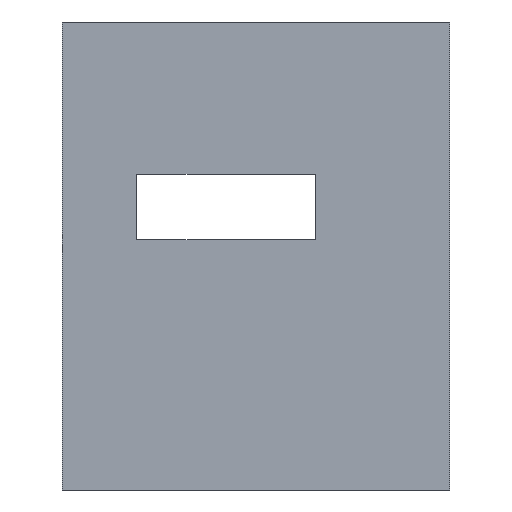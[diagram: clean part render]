
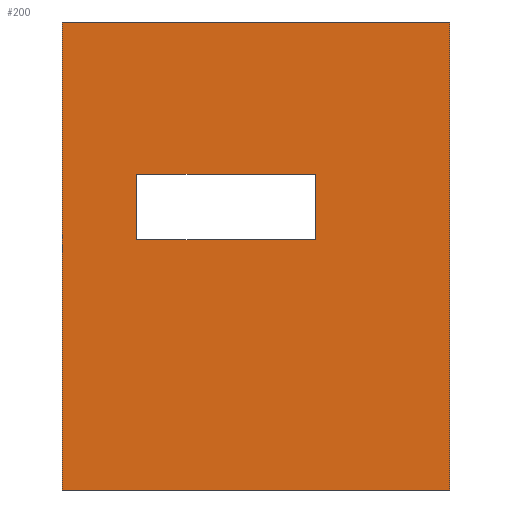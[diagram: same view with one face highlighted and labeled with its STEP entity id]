
A CAD part, front view. The second image highlights one B-rep face of the part: STEP entity #200.
In plain terms, the highlighted planar face has unit normal (0, -1, 0).
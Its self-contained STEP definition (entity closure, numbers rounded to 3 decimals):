
#21 = EDGE_CURVE('',#22,#24,#26,.T.);
#22 = VERTEX_POINT('',#23);
#23 = CARTESIAN_POINT('',(24.,22.,-9.75));
#24 = VERTEX_POINT('',#25);
#25 = CARTESIAN_POINT('',(24.,22.,-1.9));
#26 = SURFACE_CURVE('',#27,(#31,#43),.PCURVE_S1.);
#27 = LINE('',#28,#29);
#28 = CARTESIAN_POINT('',(24.,22.,-9.75));
#29 = VECTOR('',#30,1.);
#30 = DIRECTION('',(0.,0.,1.));
#31 = PCURVE('',#32,#37);
#32 = PLANE('',#33);
#33 = AXIS2_PLACEMENT_3D('',#34,#35,#36);
#34 = CARTESIAN_POINT('',(24.,22.,-9.75));
#35 = DIRECTION('',(1.,0.,-0.));
#36 = DIRECTION('',(0.,0.,1.));
#37 = DEFINITIONAL_REPRESENTATION('',(#38),#42);
#38 = LINE('',#39,#40);
#39 = CARTESIAN_POINT('',(0.,0.));
#40 = VECTOR('',#41,1.);
#41 = DIRECTION('',(1.,0.));
#42 = ( GEOMETRIC_REPRESENTATION_CONTEXT(2) 
PARAMETRIC_REPRESENTATION_CONTEXT() REPRESENTATION_CONTEXT('2D SPACE',''
  ) );
#43 = PCURVE('',#44,#49);
#44 = PLANE('',#45);
#45 = AXIS2_PLACEMENT_3D('',#46,#47,#48);
#46 = CARTESIAN_POINT('',(24.,22.,-9.75));
#47 = DIRECTION('',(-0.,1.,0.));
#48 = DIRECTION('',(0.,0.,1.));
#49 = DEFINITIONAL_REPRESENTATION('',(#50),#54);
#50 = LINE('',#51,#52);
#51 = CARTESIAN_POINT('',(0.,0.));
#52 = VECTOR('',#53,1.);
#53 = DIRECTION('',(1.,0.));
#54 = ( GEOMETRIC_REPRESENTATION_CONTEXT(2) 
PARAMETRIC_REPRESENTATION_CONTEXT() REPRESENTATION_CONTEXT('2D SPACE',''
  ) );
#72 = PLANE('',#73);
#73 = AXIS2_PLACEMENT_3D('',#74,#75,#76);
#74 = CARTESIAN_POINT('',(24.,22.,-9.75));
#75 = DIRECTION('',(0.,0.,1.));
#76 = DIRECTION('',(1.,0.,-0.));
#189 = PLANE('',#190);
#190 = AXIS2_PLACEMENT_3D('',#191,#192,#193);
#191 = CARTESIAN_POINT('',(24.,22.,-1.9));
#192 = DIRECTION('',(0.,0.,1.));
#193 = DIRECTION('',(1.,0.,-0.));
#200 = ADVANCED_FACE('',(#201,#276),#44,.F.);
#201 = FACE_BOUND('',#202,.F.);
#202 = EDGE_LOOP('',(#203,#226,#227,#250));
#203 = ORIENTED_EDGE('',*,*,#204,.F.);
#204 = EDGE_CURVE('',#22,#205,#207,.T.);
#205 = VERTEX_POINT('',#206);
#206 = CARTESIAN_POINT('',(30.5,22.,-9.75));
#207 = SURFACE_CURVE('',#208,(#212,#219),.PCURVE_S1.);
#208 = LINE('',#209,#210);
#209 = CARTESIAN_POINT('',(24.,22.,-9.75));
#210 = VECTOR('',#211,1.);
#211 = DIRECTION('',(1.,0.,-0.));
#212 = PCURVE('',#44,#213);
#213 = DEFINITIONAL_REPRESENTATION('',(#214),#218);
#214 = LINE('',#215,#216);
#215 = CARTESIAN_POINT('',(0.,0.));
#216 = VECTOR('',#217,1.);
#217 = DIRECTION('',(0.,1.));
#218 = ( GEOMETRIC_REPRESENTATION_CONTEXT(2) 
PARAMETRIC_REPRESENTATION_CONTEXT() REPRESENTATION_CONTEXT('2D SPACE',''
  ) );
#219 = PCURVE('',#72,#220);
#220 = DEFINITIONAL_REPRESENTATION('',(#221),#225);
#221 = LINE('',#222,#223);
#222 = CARTESIAN_POINT('',(0.,0.));
#223 = VECTOR('',#224,1.);
#224 = DIRECTION('',(1.,0.));
#225 = ( GEOMETRIC_REPRESENTATION_CONTEXT(2) 
PARAMETRIC_REPRESENTATION_CONTEXT() REPRESENTATION_CONTEXT('2D SPACE',''
  ) );
#226 = ORIENTED_EDGE('',*,*,#21,.T.);
#227 = ORIENTED_EDGE('',*,*,#228,.T.);
#228 = EDGE_CURVE('',#24,#229,#231,.T.);
#229 = VERTEX_POINT('',#230);
#230 = CARTESIAN_POINT('',(30.5,22.,-1.9));
#231 = SURFACE_CURVE('',#232,(#236,#243),.PCURVE_S1.);
#232 = LINE('',#233,#234);
#233 = CARTESIAN_POINT('',(24.,22.,-1.9));
#234 = VECTOR('',#235,1.);
#235 = DIRECTION('',(1.,0.,-0.));
#236 = PCURVE('',#44,#237);
#237 = DEFINITIONAL_REPRESENTATION('',(#238),#242);
#238 = LINE('',#239,#240);
#239 = CARTESIAN_POINT('',(7.85,0.));
#240 = VECTOR('',#241,1.);
#241 = DIRECTION('',(0.,1.));
#242 = ( GEOMETRIC_REPRESENTATION_CONTEXT(2) 
PARAMETRIC_REPRESENTATION_CONTEXT() REPRESENTATION_CONTEXT('2D SPACE',''
  ) );
#243 = PCURVE('',#189,#244);
#244 = DEFINITIONAL_REPRESENTATION('',(#245),#249);
#245 = LINE('',#246,#247);
#246 = CARTESIAN_POINT('',(0.,0.));
#247 = VECTOR('',#248,1.);
#248 = DIRECTION('',(1.,0.));
#249 = ( GEOMETRIC_REPRESENTATION_CONTEXT(2) 
PARAMETRIC_REPRESENTATION_CONTEXT() REPRESENTATION_CONTEXT('2D SPACE',''
  ) );
#250 = ORIENTED_EDGE('',*,*,#251,.F.);
#251 = EDGE_CURVE('',#205,#229,#252,.T.);
#252 = SURFACE_CURVE('',#253,(#257,#264),.PCURVE_S1.);
#253 = LINE('',#254,#255);
#254 = CARTESIAN_POINT('',(30.5,22.,-9.75));
#255 = VECTOR('',#256,1.);
#256 = DIRECTION('',(0.,0.,1.));
#257 = PCURVE('',#44,#258);
#258 = DEFINITIONAL_REPRESENTATION('',(#259),#263);
#259 = LINE('',#260,#261);
#260 = CARTESIAN_POINT('',(0.,6.5));
#261 = VECTOR('',#262,1.);
#262 = DIRECTION('',(1.,0.));
#263 = ( GEOMETRIC_REPRESENTATION_CONTEXT(2) 
PARAMETRIC_REPRESENTATION_CONTEXT() REPRESENTATION_CONTEXT('2D SPACE',''
  ) );
#264 = PCURVE('',#265,#270);
#265 = PLANE('',#266);
#266 = AXIS2_PLACEMENT_3D('',#267,#268,#269);
#267 = CARTESIAN_POINT('',(30.5,22.,-9.75));
#268 = DIRECTION('',(1.,0.,-0.));
#269 = DIRECTION('',(0.,0.,1.));
#270 = DEFINITIONAL_REPRESENTATION('',(#271),#275);
#271 = LINE('',#272,#273);
#272 = CARTESIAN_POINT('',(0.,0.));
#273 = VECTOR('',#274,1.);
#274 = DIRECTION('',(1.,0.));
#275 = ( GEOMETRIC_REPRESENTATION_CONTEXT(2) 
PARAMETRIC_REPRESENTATION_CONTEXT() REPRESENTATION_CONTEXT('2D SPACE',''
  ) );
#276 = FACE_BOUND('',#277,.F.);
#277 = EDGE_LOOP('',(#278,#308,#336,#364));
#278 = ORIENTED_EDGE('',*,*,#279,.F.);
#279 = EDGE_CURVE('',#280,#282,#284,.T.);
#280 = VERTEX_POINT('',#281);
#281 = CARTESIAN_POINT('',(25.25,22.,-4.45));
#282 = VERTEX_POINT('',#283);
#283 = CARTESIAN_POINT('',(28.25,22.,-4.45));
#284 = SURFACE_CURVE('',#285,(#289,#296),.PCURVE_S1.);
#285 = LINE('',#286,#287);
#286 = CARTESIAN_POINT('',(24.625,22.,-4.45));
#287 = VECTOR('',#288,1.);
#288 = DIRECTION('',(1.,0.,-0.));
#289 = PCURVE('',#44,#290);
#290 = DEFINITIONAL_REPRESENTATION('',(#291),#295);
#291 = LINE('',#292,#293);
#292 = CARTESIAN_POINT('',(5.3,0.625));
#293 = VECTOR('',#294,1.);
#294 = DIRECTION('',(0.,1.));
#295 = ( GEOMETRIC_REPRESENTATION_CONTEXT(2) 
PARAMETRIC_REPRESENTATION_CONTEXT() REPRESENTATION_CONTEXT('2D SPACE',''
  ) );
#296 = PCURVE('',#297,#302);
#297 = PLANE('',#298);
#298 = AXIS2_PLACEMENT_3D('',#299,#300,#301);
#299 = CARTESIAN_POINT('',(25.25,21.9,-4.45));
#300 = DIRECTION('',(0.,0.,1.));
#301 = DIRECTION('',(1.,0.,-0.));
#302 = DEFINITIONAL_REPRESENTATION('',(#303),#307);
#303 = LINE('',#304,#305);
#304 = CARTESIAN_POINT('',(-0.625,0.1));
#305 = VECTOR('',#306,1.);
#306 = DIRECTION('',(1.,0.));
#307 = ( GEOMETRIC_REPRESENTATION_CONTEXT(2) 
PARAMETRIC_REPRESENTATION_CONTEXT() REPRESENTATION_CONTEXT('2D SPACE',''
  ) );
#308 = ORIENTED_EDGE('',*,*,#309,.T.);
#309 = EDGE_CURVE('',#280,#310,#312,.T.);
#310 = VERTEX_POINT('',#311);
#311 = CARTESIAN_POINT('',(25.25,22.,-5.55));
#312 = SURFACE_CURVE('',#313,(#317,#324),.PCURVE_S1.);
#313 = LINE('',#314,#315);
#314 = CARTESIAN_POINT('',(25.25,22.,-7.65));
#315 = VECTOR('',#316,1.);
#316 = DIRECTION('',(-0.,0.,-1.));
#317 = PCURVE('',#44,#318);
#318 = DEFINITIONAL_REPRESENTATION('',(#319),#323);
#319 = LINE('',#320,#321);
#320 = CARTESIAN_POINT('',(2.1,1.25));
#321 = VECTOR('',#322,1.);
#322 = DIRECTION('',(-1.,0.));
#323 = ( GEOMETRIC_REPRESENTATION_CONTEXT(2) 
PARAMETRIC_REPRESENTATION_CONTEXT() REPRESENTATION_CONTEXT('2D SPACE',''
  ) );
#324 = PCURVE('',#325,#330);
#325 = PLANE('',#326);
#326 = AXIS2_PLACEMENT_3D('',#327,#328,#329);
#327 = CARTESIAN_POINT('',(25.25,21.9,-5.55));
#328 = DIRECTION('',(1.,0.,-0.));
#329 = DIRECTION('',(0.,0.,1.));
#330 = DEFINITIONAL_REPRESENTATION('',(#331),#335);
#331 = LINE('',#332,#333);
#332 = CARTESIAN_POINT('',(-2.1,-0.1));
#333 = VECTOR('',#334,1.);
#334 = DIRECTION('',(-1.,-0.));
#335 = ( GEOMETRIC_REPRESENTATION_CONTEXT(2) 
PARAMETRIC_REPRESENTATION_CONTEXT() REPRESENTATION_CONTEXT('2D SPACE',''
  ) );
#336 = ORIENTED_EDGE('',*,*,#337,.T.);
#337 = EDGE_CURVE('',#310,#338,#340,.T.);
#338 = VERTEX_POINT('',#339);
#339 = CARTESIAN_POINT('',(28.25,22.,-5.55));
#340 = SURFACE_CURVE('',#341,(#345,#352),.PCURVE_S1.);
#341 = LINE('',#342,#343);
#342 = CARTESIAN_POINT('',(24.625,22.,-5.55));
#343 = VECTOR('',#344,1.);
#344 = DIRECTION('',(1.,0.,-0.));
#345 = PCURVE('',#44,#346);
#346 = DEFINITIONAL_REPRESENTATION('',(#347),#351);
#347 = LINE('',#348,#349);
#348 = CARTESIAN_POINT('',(4.2,0.625));
#349 = VECTOR('',#350,1.);
#350 = DIRECTION('',(0.,1.));
#351 = ( GEOMETRIC_REPRESENTATION_CONTEXT(2) 
PARAMETRIC_REPRESENTATION_CONTEXT() REPRESENTATION_CONTEXT('2D SPACE',''
  ) );
#352 = PCURVE('',#353,#358);
#353 = PLANE('',#354);
#354 = AXIS2_PLACEMENT_3D('',#355,#356,#357);
#355 = CARTESIAN_POINT('',(25.25,21.9,-5.55));
#356 = DIRECTION('',(0.,0.,1.));
#357 = DIRECTION('',(1.,0.,-0.));
#358 = DEFINITIONAL_REPRESENTATION('',(#359),#363);
#359 = LINE('',#360,#361);
#360 = CARTESIAN_POINT('',(-0.625,0.1));
#361 = VECTOR('',#362,1.);
#362 = DIRECTION('',(1.,0.));
#363 = ( GEOMETRIC_REPRESENTATION_CONTEXT(2) 
PARAMETRIC_REPRESENTATION_CONTEXT() REPRESENTATION_CONTEXT('2D SPACE',''
  ) );
#364 = ORIENTED_EDGE('',*,*,#365,.F.);
#365 = EDGE_CURVE('',#282,#338,#366,.T.);
#366 = SURFACE_CURVE('',#367,(#371,#378),.PCURVE_S1.);
#367 = LINE('',#368,#369);
#368 = CARTESIAN_POINT('',(28.25,22.,-7.65));
#369 = VECTOR('',#370,1.);
#370 = DIRECTION('',(-0.,0.,-1.));
#371 = PCURVE('',#44,#372);
#372 = DEFINITIONAL_REPRESENTATION('',(#373),#377);
#373 = LINE('',#374,#375);
#374 = CARTESIAN_POINT('',(2.1,4.25));
#375 = VECTOR('',#376,1.);
#376 = DIRECTION('',(-1.,0.));
#377 = ( GEOMETRIC_REPRESENTATION_CONTEXT(2) 
PARAMETRIC_REPRESENTATION_CONTEXT() REPRESENTATION_CONTEXT('2D SPACE',''
  ) );
#378 = PCURVE('',#379,#384);
#379 = PLANE('',#380);
#380 = AXIS2_PLACEMENT_3D('',#381,#382,#383);
#381 = CARTESIAN_POINT('',(28.25,21.9,-5.55));
#382 = DIRECTION('',(1.,0.,-0.));
#383 = DIRECTION('',(0.,0.,1.));
#384 = DEFINITIONAL_REPRESENTATION('',(#385),#389);
#385 = LINE('',#386,#387);
#386 = CARTESIAN_POINT('',(-2.1,-0.1));
#387 = VECTOR('',#388,1.);
#388 = DIRECTION('',(-1.,-0.));
#389 = ( GEOMETRIC_REPRESENTATION_CONTEXT(2) 
PARAMETRIC_REPRESENTATION_CONTEXT() REPRESENTATION_CONTEXT('2D SPACE',''
  ) );
